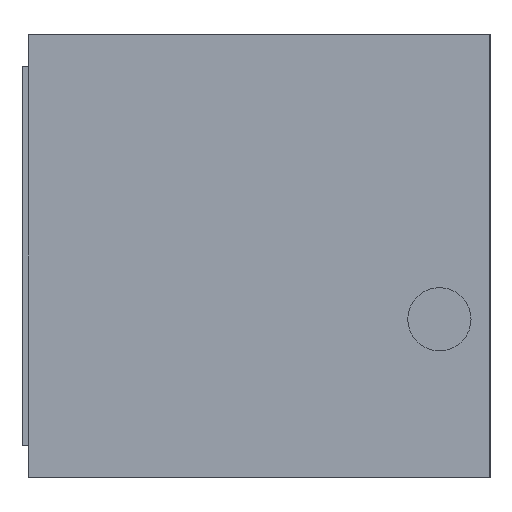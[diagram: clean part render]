
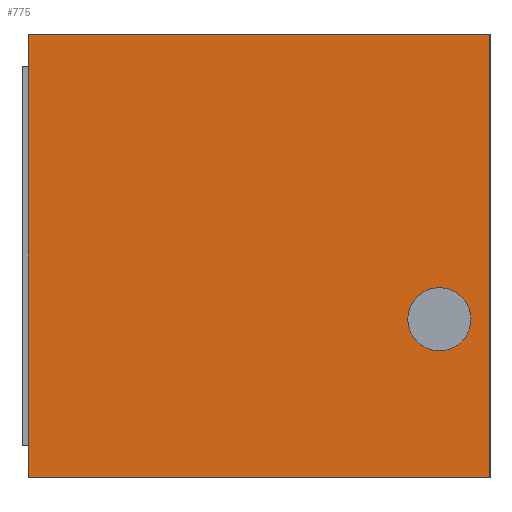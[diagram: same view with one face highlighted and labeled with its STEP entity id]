
A CAD part, left-side view. The second image highlights one B-rep face of the part: STEP entity #775.
In plain terms, the highlighted planar face has unit normal (-1, 0, 0).
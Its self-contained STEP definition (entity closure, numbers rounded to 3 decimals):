
#2 = CARTESIAN_POINT ( 'NONE',  ( -82.5, 0., 17.5 ) ) ;
#29 = VECTOR ( 'NONE', #1071, 1000. ) ;
#48 = ORIENTED_EDGE ( 'NONE', *, *, #1330, .F. ) ;
#65 = EDGE_CURVE ( 'NONE', #723, #1023, #1107, .T. ) ;
#81 = FACE_BOUND ( 'NONE', #1184, .T. ) ;
#110 = EDGE_CURVE ( 'NONE', #353, #528, #1181, .T. ) ;
#133 = EDGE_LOOP ( 'NONE', ( #485, #311, #48, #1159 ) ) ;
#141 = DIRECTION ( 'NONE',  ( -1., 0., 0. ) ) ;
#169 = DIRECTION ( 'NONE',  ( 0., 0., -1. ) ) ;
#171 = CARTESIAN_POINT ( 'NONE',  ( -82.5, 36.5, 17.5 ) ) ;
#211 = AXIS2_PLACEMENT_3D ( 'NONE', #828, #720, #169 ) ;
#248 = CARTESIAN_POINT ( 'NONE',  ( -82.5, 0., -17.5 ) ) ;
#261 = CARTESIAN_POINT ( 'NONE',  ( -82.5, 36.5, -17.5 ) ) ;
#284 = DIRECTION ( 'NONE',  ( 0., -1., 0. ) ) ;
#311 = ORIENTED_EDGE ( 'NONE', *, *, #65, .F. ) ;
#353 = VERTEX_POINT ( 'NONE', #855 ) ;
#368 = LINE ( 'NONE', #1399, #29 ) ;
#378 = EDGE_CURVE ( 'NONE', #528, #1023, #368, .T. ) ;
#393 = CARTESIAN_POINT ( 'NONE',  ( -82.5, 4., -5. ) ) ;
#467 = EDGE_CURVE ( 'NONE', #800, #1101, #623, .T. ) ;
#484 = CARTESIAN_POINT ( 'NONE',  ( -82.5, 36.5, 17.5 ) ) ;
#485 = ORIENTED_EDGE ( 'NONE', *, *, #378, .T. ) ;
#528 = VERTEX_POINT ( 'NONE', #248 ) ;
#623 = CIRCLE ( 'NONE', #1178, 2.5 ) ;
#624 = VECTOR ( 'NONE', #284, 1000. ) ;
#670 = VECTOR ( 'NONE', #1402, 1000. ) ;
#691 = ORIENTED_EDGE ( 'NONE', *, *, #737, .F. ) ;
#703 = LINE ( 'NONE', #261, #670 ) ;
#720 = DIRECTION ( 'NONE',  ( 1., 0., 0. ) ) ;
#723 = VERTEX_POINT ( 'NONE', #484 ) ;
#737 = EDGE_CURVE ( 'NONE', #1101, #800, #896, .T. ) ;
#745 = VECTOR ( 'NONE', #1288, 1000. ) ;
#775 = ADVANCED_FACE ( 'NONE', ( #81, #1054 ), #1052, .F. ) ;
#779 = CARTESIAN_POINT ( 'NONE',  ( -82.5, 4., -7.5 ) ) ;
#788 = ORIENTED_EDGE ( 'NONE', *, *, #467, .F. ) ;
#800 = VERTEX_POINT ( 'NONE', #1265 ) ;
#828 = CARTESIAN_POINT ( 'NONE',  ( -82.5, 36.5, -17.5 ) ) ;
#855 = CARTESIAN_POINT ( 'NONE',  ( -82.5, 36.5, -17.5 ) ) ;
#893 = CARTESIAN_POINT ( 'NONE',  ( -82.5, 4., -5. ) ) ;
#896 = CIRCLE ( 'NONE', #1121, 2.5 ) ;
#947 = CARTESIAN_POINT ( 'NONE',  ( -82.5, 36.5, -17.5 ) ) ;
#1023 = VERTEX_POINT ( 'NONE', #2 ) ;
#1048 = DIRECTION ( 'NONE',  ( 0., 0., -1. ) ) ;
#1052 = PLANE ( 'NONE',  #211 ) ;
#1054 = FACE_OUTER_BOUND ( 'NONE', #133, .T. ) ;
#1071 = DIRECTION ( 'NONE',  ( 0., 0., 1. ) ) ;
#1101 = VERTEX_POINT ( 'NONE', #779 ) ;
#1107 = LINE ( 'NONE', #171, #624 ) ;
#1121 = AXIS2_PLACEMENT_3D ( 'NONE', #393, #1272, #1048 ) ;
#1159 = ORIENTED_EDGE ( 'NONE', *, *, #110, .T. ) ;
#1178 = AXIS2_PLACEMENT_3D ( 'NONE', #893, #141, #1229 ) ;
#1181 = LINE ( 'NONE', #947, #745 ) ;
#1184 = EDGE_LOOP ( 'NONE', ( #691, #788 ) ) ;
#1229 = DIRECTION ( 'NONE',  ( 0., 0., -1. ) ) ;
#1265 = CARTESIAN_POINT ( 'NONE',  ( -82.5, 4., -2.5 ) ) ;
#1272 = DIRECTION ( 'NONE',  ( -1., 0., 0. ) ) ;
#1288 = DIRECTION ( 'NONE',  ( 0., -1., 0. ) ) ;
#1330 = EDGE_CURVE ( 'NONE', #353, #723, #703, .T. ) ;
#1399 = CARTESIAN_POINT ( 'NONE',  ( -82.5, 0., -17.5 ) ) ;
#1402 = DIRECTION ( 'NONE',  ( 0., 0., 1. ) ) ;
